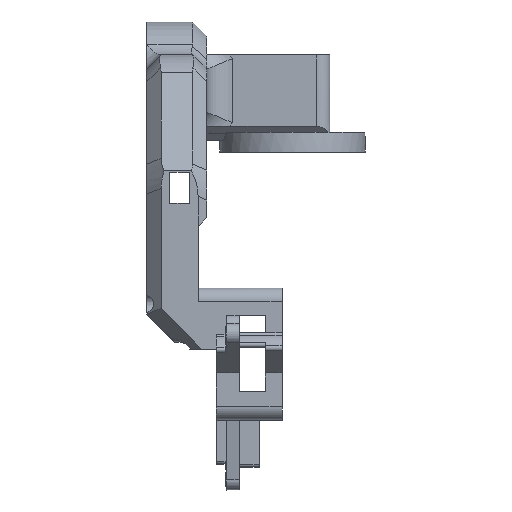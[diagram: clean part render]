
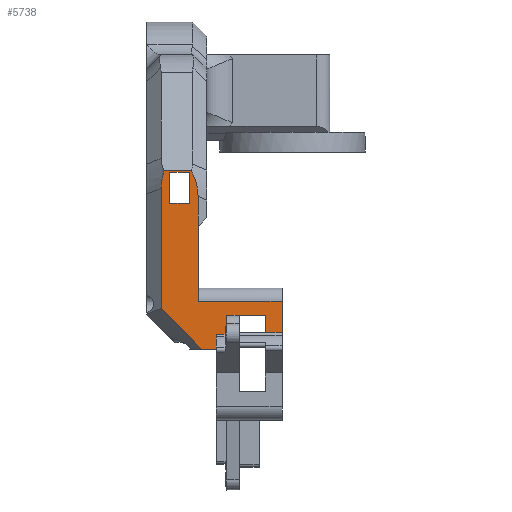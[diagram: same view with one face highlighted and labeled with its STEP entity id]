
A CAD part, left-side view. The second image highlights one B-rep face of the part: STEP entity #5738.
In plain terms, the highlighted planar face has unit normal (-1, 0, 0).
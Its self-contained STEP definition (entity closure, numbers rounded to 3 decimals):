
#106=ELLIPSE('',#6128,30.946,21.);
#110=ELLIPSE('',#6134,30.946,21.);
#157=FACE_BOUND('',#812,.T.);
#213=PLANE('',#6133);
#504=FACE_OUTER_BOUND('',#811,.T.);
#811=EDGE_LOOP('',(#4182,#4183,#4184,#4185,#4186,#4187,#4188,#4189,#4190,
#4191,#4192,#4193,#4194,#4195,#4196,#4197,#4198,#4199));
#812=EDGE_LOOP('',(#4200,#4201,#4202,#4203));
#1228=LINE('',#8834,#1772);
#1229=LINE('',#8837,#1773);
#1230=LINE('',#8838,#1774);
#1231=LINE('',#8840,#1775);
#1232=LINE('',#8842,#1776);
#1233=LINE('',#8844,#1777);
#1234=LINE('',#8846,#1778);
#1235=LINE('',#8848,#1779);
#1236=LINE('',#8850,#1780);
#1237=LINE('',#8852,#1781);
#1238=LINE('',#8854,#1782);
#1239=LINE('',#8856,#1783);
#1240=LINE('',#8858,#1784);
#1241=LINE('',#8860,#1785);
#1242=LINE('',#8862,#1786);
#1243=LINE('',#8865,#1787);
#1244=LINE('',#8868,#1788);
#1245=LINE('',#8870,#1789);
#1246=LINE('',#8872,#1790);
#1247=LINE('',#8873,#1791);
#1772=VECTOR('',#6967,10.);
#1773=VECTOR('',#6970,10.);
#1774=VECTOR('',#6971,10.);
#1775=VECTOR('',#6972,10.);
#1776=VECTOR('',#6973,10.);
#1777=VECTOR('',#6974,10.);
#1778=VECTOR('',#6975,10.);
#1779=VECTOR('',#6976,10.);
#1780=VECTOR('',#6977,10.);
#1781=VECTOR('',#6978,10.);
#1782=VECTOR('',#6979,10.);
#1783=VECTOR('',#6980,10.);
#1784=VECTOR('',#6981,10.);
#1785=VECTOR('',#6982,10.);
#1786=VECTOR('',#6983,10.);
#1787=VECTOR('',#6986,10.);
#1788=VECTOR('',#6987,10.);
#1789=VECTOR('',#6988,10.);
#1790=VECTOR('',#6989,10.);
#1791=VECTOR('',#6990,10.);
#2448=VERTEX_POINT('',#8401);
#2576=VERTEX_POINT('',#8821);
#2577=VERTEX_POINT('',#8823);
#2580=VERTEX_POINT('',#8832);
#2581=VERTEX_POINT('',#8836);
#2582=VERTEX_POINT('',#8839);
#2583=VERTEX_POINT('',#8841);
#2584=VERTEX_POINT('',#8843);
#2585=VERTEX_POINT('',#8845);
#2586=VERTEX_POINT('',#8847);
#2587=VERTEX_POINT('',#8849);
#2588=VERTEX_POINT('',#8851);
#2589=VERTEX_POINT('',#8853);
#2590=VERTEX_POINT('',#8855);
#2591=VERTEX_POINT('',#8857);
#2592=VERTEX_POINT('',#8859);
#2593=VERTEX_POINT('',#8861);
#2594=VERTEX_POINT('',#8863);
#2595=VERTEX_POINT('',#8866);
#2596=VERTEX_POINT('',#8867);
#2597=VERTEX_POINT('',#8869);
#2598=VERTEX_POINT('',#8871);
#3202=EDGE_CURVE('',#2577,#2576,#106,.T.);
#3208=EDGE_CURVE('',#2576,#2580,#1228,.T.);
#3209=EDGE_CURVE('',#2580,#2581,#1229,.T.);
#3210=EDGE_CURVE('',#2448,#2581,#1230,.T.);
#3211=EDGE_CURVE('',#2582,#2448,#1231,.T.);
#3212=EDGE_CURVE('',#2582,#2583,#1232,.T.);
#3213=EDGE_CURVE('',#2583,#2584,#1233,.T.);
#3214=EDGE_CURVE('',#2584,#2585,#1234,.T.);
#3215=EDGE_CURVE('',#2586,#2585,#1235,.T.);
#3216=EDGE_CURVE('',#2587,#2586,#1236,.T.);
#3217=EDGE_CURVE('',#2587,#2588,#1237,.T.);
#3218=EDGE_CURVE('',#2588,#2589,#1238,.F.);
#3219=EDGE_CURVE('',#2590,#2589,#1239,.T.);
#3220=EDGE_CURVE('',#2590,#2591,#1240,.T.);
#3221=EDGE_CURVE('',#2591,#2592,#1241,.T.);
#3222=EDGE_CURVE('',#2592,#2593,#1242,.T.);
#3223=EDGE_CURVE('',#2593,#2594,#110,.T.);
#3224=EDGE_CURVE('',#2577,#2594,#1243,.T.);
#3225=EDGE_CURVE('',#2595,#2596,#1244,.T.);
#3226=EDGE_CURVE('',#2595,#2597,#1245,.T.);
#3227=EDGE_CURVE('',#2598,#2597,#1246,.T.);
#3228=EDGE_CURVE('',#2596,#2598,#1247,.T.);
#4182=ORIENTED_EDGE('',*,*,#3202,.T.);
#4183=ORIENTED_EDGE('',*,*,#3208,.T.);
#4184=ORIENTED_EDGE('',*,*,#3209,.T.);
#4185=ORIENTED_EDGE('',*,*,#3210,.F.);
#4186=ORIENTED_EDGE('',*,*,#3211,.F.);
#4187=ORIENTED_EDGE('',*,*,#3212,.T.);
#4188=ORIENTED_EDGE('',*,*,#3213,.T.);
#4189=ORIENTED_EDGE('',*,*,#3214,.T.);
#4190=ORIENTED_EDGE('',*,*,#3215,.F.);
#4191=ORIENTED_EDGE('',*,*,#3216,.F.);
#4192=ORIENTED_EDGE('',*,*,#3217,.T.);
#4193=ORIENTED_EDGE('',*,*,#3218,.T.);
#4194=ORIENTED_EDGE('',*,*,#3219,.F.);
#4195=ORIENTED_EDGE('',*,*,#3220,.T.);
#4196=ORIENTED_EDGE('',*,*,#3221,.T.);
#4197=ORIENTED_EDGE('',*,*,#3222,.T.);
#4198=ORIENTED_EDGE('',*,*,#3223,.T.);
#4199=ORIENTED_EDGE('',*,*,#3224,.F.);
#4200=ORIENTED_EDGE('',*,*,#3225,.F.);
#4201=ORIENTED_EDGE('',*,*,#3226,.T.);
#4202=ORIENTED_EDGE('',*,*,#3227,.F.);
#4203=ORIENTED_EDGE('',*,*,#3228,.F.);
#5738=ADVANCED_FACE('',(#504,#157),#213,.F.);
#6128=AXIS2_PLACEMENT_3D('',#8824,#6955,#6956);
#6133=AXIS2_PLACEMENT_3D('',#8835,#6968,#6969);
#6134=AXIS2_PLACEMENT_3D('',#8864,#6984,#6985);
#6955=DIRECTION('center_axis',(-1.,0.,0.));
#6956=DIRECTION('ref_axis',(0.,0.924,-0.383));
#6967=DIRECTION('',(0.,0.,-1.));
#6968=DIRECTION('center_axis',(1.,0.,0.));
#6969=DIRECTION('ref_axis',(0.,0.,1.));
#6970=DIRECTION('',(0.,-0.707,-0.707));
#6971=DIRECTION('',(0.,1.,0.));
#6972=DIRECTION('',(0.,1.,0.));
#6973=DIRECTION('',(0.,0.,1.));
#6974=DIRECTION('',(0.,-1.,0.));
#6975=DIRECTION('',(0.,0.,1.));
#6976=DIRECTION('',(0.,1.,0.));
#6977=DIRECTION('',(0.,0.,1.));
#6978=DIRECTION('',(0.,-1.,0.));
#6979=DIRECTION('',(0.,0.,-1.));
#6980=DIRECTION('',(0.,-1.,0.));
#6981=DIRECTION('',(0.,0.,1.));
#6982=DIRECTION('',(0.,0.,1.));
#6983=DIRECTION('',(0.,0.,1.));
#6984=DIRECTION('center_axis',(-1.,0.,0.));
#6985=DIRECTION('ref_axis',(0.,-0.924,-0.383));
#6986=DIRECTION('',(0.,-1.,0.));
#6987=DIRECTION('',(0.,0.,-1.));
#6988=DIRECTION('',(0.,-1.,0.));
#6989=DIRECTION('',(0.,0.,1.));
#6990=DIRECTION('',(0.,-1.,0.));
#8401=CARTESIAN_POINT('',(-102.718,0.015,-28.174));
#8821=CARTESIAN_POINT('',(-102.718,19.415,28.123));
#8823=CARTESIAN_POINT('',(-102.718,18.307,34.273));
#8824=CARTESIAN_POINT('Origin',(-102.718,-10.283,34.273));
#8832=CARTESIAN_POINT('',(-102.718,19.415,-13.903));
#8834=CARTESIAN_POINT('',(-102.718,19.415,-14.485));
#8835=CARTESIAN_POINT('Origin',(-102.718,24.415,-11.492));
#8836=CARTESIAN_POINT('',(-102.718,5.144,-28.174));
#8837=CARTESIAN_POINT('',(-102.718,22.,-11.318));
#8838=CARTESIAN_POINT('',(-102.718,12.215,-28.174));
#8839=CARTESIAN_POINT('',(-102.718,-3.485,-28.174));
#8840=CARTESIAN_POINT('',(-102.718,12.215,-28.174));
#8841=CARTESIAN_POINT('',(-102.718,-3.485,-16.311));
#8842=CARTESIAN_POINT('',(-102.718,-3.485,-17.515));
#8843=CARTESIAN_POINT('',(-102.718,-7.985,-16.311));
#8844=CARTESIAN_POINT('',(-102.718,8.215,-16.311));
#8845=CARTESIAN_POINT('',(-102.718,-7.985,-16.31));
#8846=CARTESIAN_POINT('',(-102.718,-7.985,-19.536));
#8847=CARTESIAN_POINT('',(-102.718,-17.11,-16.31));
#8848=CARTESIAN_POINT('',(-102.718,5.934,-16.31));
#8849=CARTESIAN_POINT('',(-102.718,-17.11,-22.978));
#8850=CARTESIAN_POINT('',(-102.718,-17.11,-19.536));
#8851=CARTESIAN_POINT('',(-102.718,-22.985,-22.978));
#8852=CARTESIAN_POINT('',(-102.718,-22.985,-22.978));
#8853=CARTESIAN_POINT('',(-102.718,-22.985,-11.492));
#8854=CARTESIAN_POINT('',(-102.718,-22.985,-20.701));
#8855=CARTESIAN_POINT('',(-102.718,6.415,-11.492));
#8856=CARTESIAN_POINT('',(-102.718,0.015,-11.492));
#8857=CARTESIAN_POINT('',(-102.718,6.415,-11.487));
#8858=CARTESIAN_POINT('',(-102.718,6.415,31.826));
#8859=CARTESIAN_POINT('',(-102.718,6.415,14.826));
#8860=CARTESIAN_POINT('',(-102.718,6.415,31.826));
#8861=CARTESIAN_POINT('',(-102.718,6.415,25.294));
#8862=CARTESIAN_POINT('',(-102.718,6.415,31.667));
#8863=CARTESIAN_POINT('',(-102.718,8.746,34.273));
#8864=CARTESIAN_POINT('Origin',(-102.718,36.114,31.445));
#8865=CARTESIAN_POINT('',(-102.718,24.415,34.273));
#8866=CARTESIAN_POINT('',(-102.718,16.415,33.826));
#8867=CARTESIAN_POINT('',(-102.718,16.415,22.826));
#8868=CARTESIAN_POINT('',(-102.718,16.415,5.667));
#8869=CARTESIAN_POINT('',(-102.718,9.415,33.826));
#8870=CARTESIAN_POINT('',(-102.718,16.415,33.826));
#8871=CARTESIAN_POINT('',(-102.718,9.415,22.826));
#8872=CARTESIAN_POINT('',(-102.718,9.415,13.667));
#8873=CARTESIAN_POINT('',(-102.718,16.915,22.826));
